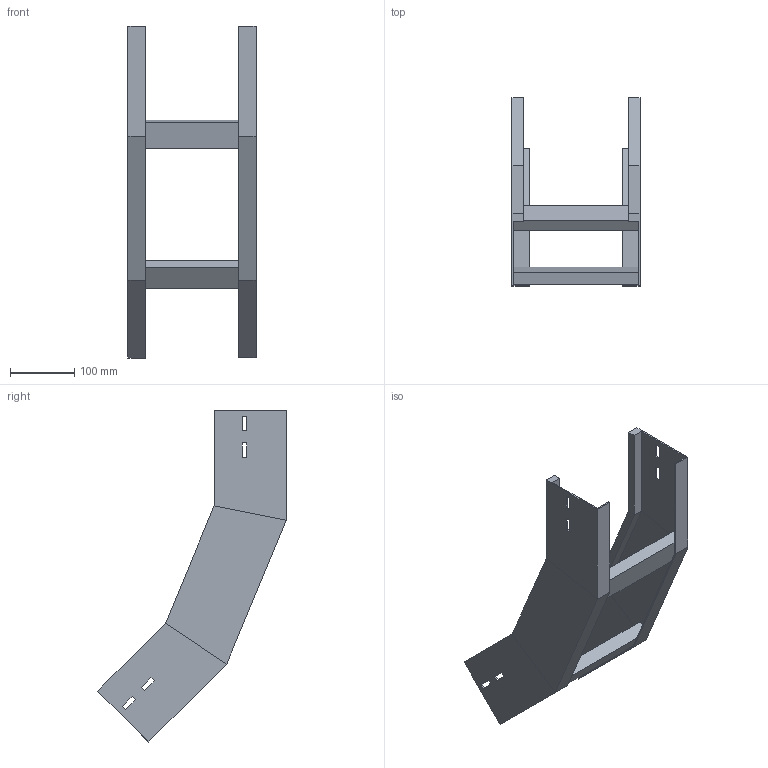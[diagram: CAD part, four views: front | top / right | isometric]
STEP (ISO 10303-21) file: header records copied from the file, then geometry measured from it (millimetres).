
FILE_DESCRIPTION (( 'STEP AP214' ), '1' );
FILE_NAME ('B2X31B5J200XX.step', '2025-03-20T10:08:16', ( '' ), ( '' ), 'SwSTEP 2.0', 'SolidWorks 2023', '' );
FILE_SCHEMA (( 'AUTOMOTIVE_DESIGN' ));
Length unit declared in the file: millimetre
Products named in the file (3): LONGH.SALITA_45°_H112.5_R500; TRAVERSINO_200; B2X31B5J200XX
Assembly tree (4 placements, depth 2):
  B2X31B5J200XX
    LONGH.SALITA_45°_H112.5_R500  x2
    TRAVERSINO_200  x2
Bounding box: 200 x 294.27 x 518.39 mm (x, y, z)
Volume: 810835.9 mm3; surface area: 390304 mm2
Topology: 4 solids, 4 shells, 96 faces, 232 edges, 144 vertices
Faces by surface type: plane 96
Entity records: 1472 total; most frequent: CARTESIAN_POINT 243, ORIENTED_EDGE 232, DIRECTION 226, VECTOR 116, EDGE_CURVE 116, LINE 116, VERTEX_POINT 72, EDGE_LOOP 56
